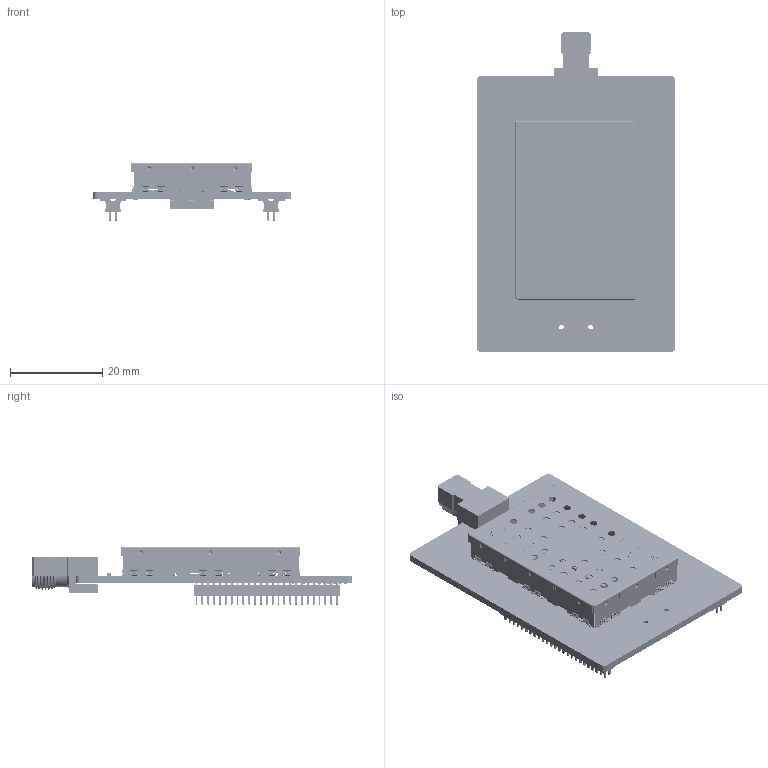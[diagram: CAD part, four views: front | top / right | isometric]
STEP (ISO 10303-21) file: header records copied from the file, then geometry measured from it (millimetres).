
FILE_DESCRIPTION(('Open CASCADE Model'),'2;1');
FILE_NAME('Open CASCADE Shape Model','2026-06-02T11:40:00',('Author'),( 'Open CASCADE'),'Open CASCADE STEP processor 7.5','Open CASCADE 7.5' ,'Unknown');
FILE_SCHEMA(('AUTOMOTIVE_DESIGN { 1 0 10303 214 1 1 1 1 }'));
Length unit declared in the file: millimetre
Products named in the file (137): PCB; Board; Open CASCADE STEP translator 7.5 1.1.1; HW1; Download_STP_WE-SHC-3600637250S_rev1_RGB8421504; SB1; R0201; 10280821840; Extruded; SB7; R0402; 10280817712; Cover1; Download_STP_WE-SHC-3600637250S (rev1) (1); SC9; 36900000; SC10; SC8; SC7; SC6; SC5; SC4; SC3; SC2; SC1; Frame1; 3610637256S; C14; C0402; 10280821792; U2; 11153932944; L1; 11137718656; C35; 10280656224; C31; L21; C40; C7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
Assembly tree (250 placements, depth 4):
  PCB
    Board
      Open CASCADE STEP translator 7.5 1.1.1
    HW1
      Download_STP_WE-SHC-3600637250S_rev1_RGB8421504
    SB1
      R0201
      10280821840
        Extruded
    SB7
      R0402
      10280817712
        Extruded
    Cover1
      Download_STP_WE-SHC-3600637250S (rev1) (1)
    SC9
      36900000
    SC10
      36900000
    SC8
      36900000
    SC7
      36900000
    SC6
      36900000
    SC5
      36900000
    SC4
      36900000
    SC3
      36900000
    SC2
      36900000
    SC1
      36900000
    Frame1
      3610637256S
    C14
      C0402
      10280821792
        Extruded
    U2
      11153932944
        Extruded
    L1
      10280821792
        Extruded
      11137718656
        Extruded
    C35
      C0402
      10280656224
        Extruded
    C31
      C0402
      10280821792
        Extruded
    L21
      10280821792
        Extruded
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Bounding box: 43 x 69.55 x 12.58 mm (x, y, z)
Volume: 6219.1 mm3; surface area: 16516.5 mm2
Topology: 179 solids, 179 shells, 11551 faces, 29296 edges, 17739 vertices
Faces by surface type: plane 5675, cylinder 3433, bspline 1387, sphere 599, revolution 264, torus 187, cone 6
Full cylindrical faces by diameter (mm): 0.5 x2, 0.991 x1, 1 x14, 2 x76, 4.674 x1, 5.08 x1, 5.385 x1
Entity records: 108823 total; most frequent: CARTESIAN_POINT 23312, ORIENTED_EDGE 15612, DIRECTION 14704, EDGE_CURVE 7806, LINE 5710, VECTOR 5710, VERTEX_POINT 5039, AXIS2_PLACEMENT_3D 4477
